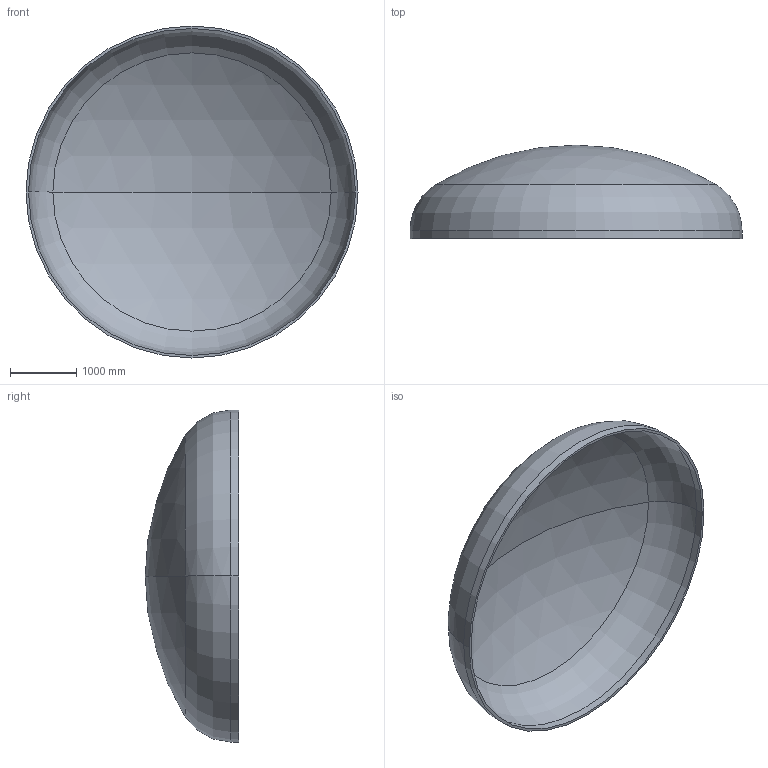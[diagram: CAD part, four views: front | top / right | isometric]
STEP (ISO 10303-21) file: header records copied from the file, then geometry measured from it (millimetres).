
FILE_DESCRIPTION (( 'STEP AP203' ), '1' );
FILE_NAME ('DIN 28013 Korbbogenform_-_Boden DIN 28013 - 5000 x 120 - I - s=38.step', '2016-07-02T00:25:57', ( '' ), ( '' ), 'SwSTEP 2.0', 'SolidWorks 2013', '' );
FILE_SCHEMA (( 'CONFIG_CONTROL_DESIGN' ));
Length unit declared in the file: millimetre
Products named in the file (1): DIN 28013 Korbbogenform_-_Boden DIN 28013 - 5000 x 120 - I - s=38
Bounding box: 5000 x 1406.63 x 5000 mm (x, y, z)
Volume: 1094136643.5 mm3; surface area: 58181507.7 mm2
Topology: 1 solids, 1 shells, 13 faces, 24 edges, 14 vertices
Faces by surface type: torus 4, cylinder 4, sphere 4, plane 1
Entity records: 407 total; most frequent: DIRECTION 72, CARTESIAN_POINT 52, ORIENTED_EDGE 48, AXIS2_PLACEMENT_3D 34, EDGE_CURVE 24, CIRCLE 20, VERTEX_POINT 14, EDGE_LOOP 14
